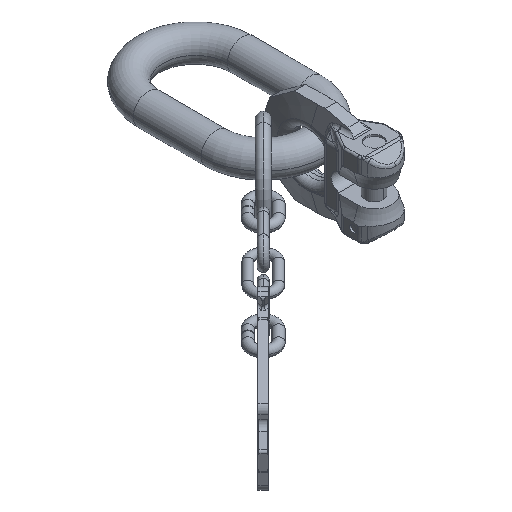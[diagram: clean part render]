
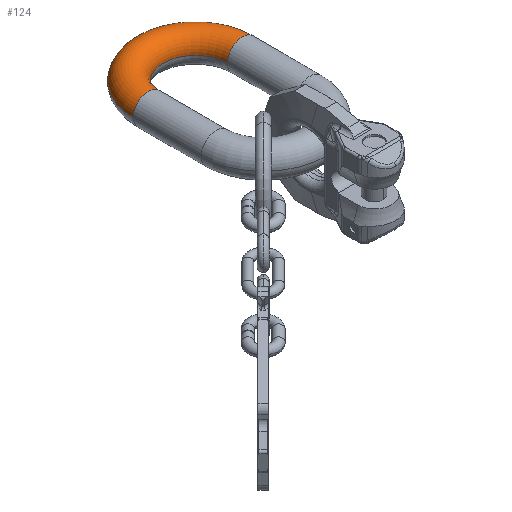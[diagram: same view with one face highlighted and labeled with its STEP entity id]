
A CAD part, isometric view. The second image highlights one B-rep face of the part: STEP entity #124.
In plain terms, the highlighted toroidal (fillet/blend) face has major radius 25 mm and minor radius 8 mm.
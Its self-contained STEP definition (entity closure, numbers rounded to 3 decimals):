
#6=CARTESIAN_POINT('',(-25.,36.,0.));
#7=DIRECTION('',(0.,1.,0.));
#8=DIRECTION('',(-1.,0.,0.));
#9=AXIS2_PLACEMENT_3D('',#6,#7,#8);
#11=CARTESIAN_POINT('',(0.,36.,0.));
#12=DIRECTION('',(0.,0.,-1.));
#13=DIRECTION('',(-1.,0.,0.));
#14=AXIS2_PLACEMENT_3D('',#11,#12,#13);
#16=CARTESIAN_POINT('',(25.,36.,0.));
#17=DIRECTION('',(0.,-1.,0.));
#18=DIRECTION('',(1.,0.,0.));
#19=AXIS2_PLACEMENT_3D('',#16,#17,#18);
#59=CARTESIAN_POINT('',(0.,36.,0.));
#60=DIRECTION('',(0.,0.,-1.));
#61=DIRECTION('',(-1.,0.,0.));
#62=AXIS2_PLACEMENT_3D('',#59,#60,#61);
#78=CARTESIAN_POINT('',(33.,36.,0.));
#79=CARTESIAN_POINT('',(17.,36.,0.));
#80=VERTEX_POINT('',#78);
#81=VERTEX_POINT('',#79);
#90=CARTESIAN_POINT('',(-33.,36.,0.));
#91=CARTESIAN_POINT('',(-17.,36.,0.));
#92=VERTEX_POINT('',#90);
#93=VERTEX_POINT('',#91);
#110=CARTESIAN_POINT('',(0.,36.,0.));
#111=DIRECTION('',(0.,0.,-1.));
#112=DIRECTION('',(1.,0.,0.));
#113=AXIS2_PLACEMENT_3D('',#110,#111,#112);
#114=TOROIDAL_SURFACE('',#113,25.,8.);
#116=ORIENTED_EDGE('',*,*,#115,.F.);
#118=ORIENTED_EDGE('',*,*,#117,.T.);
#119=ORIENTED_EDGE('',*,*,#99,.T.);
#121=ORIENTED_EDGE('',*,*,#120,.F.);
#122=EDGE_LOOP('',(#116,#118,#119,#121));
#123=FACE_OUTER_BOUND('',#122,.F.);
#124=ADVANCED_FACE('',(#123),#114,.T.);
#10=CIRCLE('',#9,8.);
#15=CIRCLE('',#14,33.);
#20=CIRCLE('',#19,8.);
#63=CIRCLE('',#62,17.);
#99=EDGE_CURVE('',#80,#81,#20,.T.);
#115=EDGE_CURVE('',#92,#93,#10,.T.);
#117=EDGE_CURVE('',#92,#80,#15,.T.);
#120=EDGE_CURVE('',#93,#81,#63,.T.);
